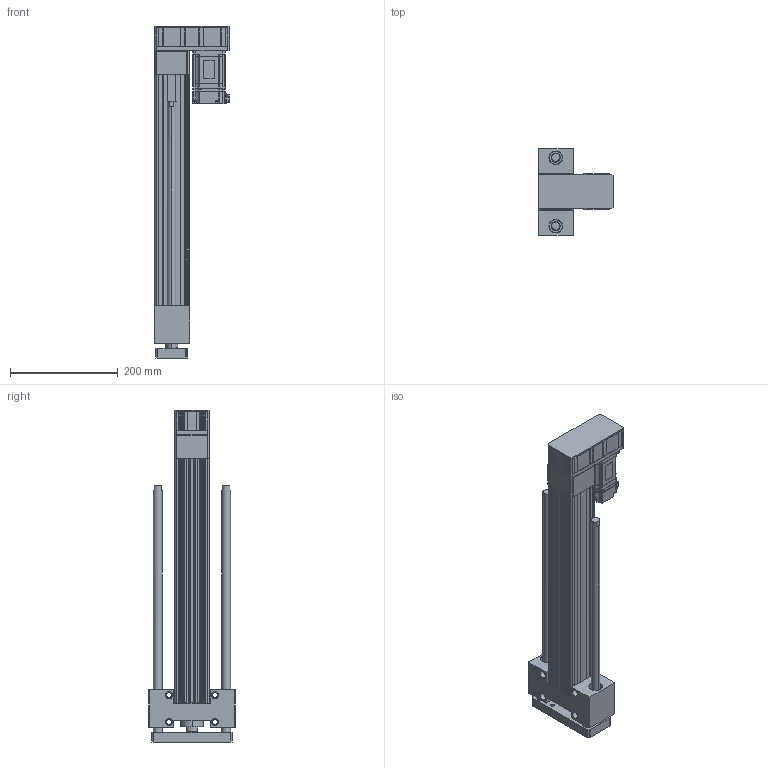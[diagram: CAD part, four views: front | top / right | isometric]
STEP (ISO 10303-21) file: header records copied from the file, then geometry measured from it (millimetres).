
FILE_DESCRIPTION (( 'STEP AP203' ), '1' );
FILE_NAME ('ANS065R-HP350-05(10)(20)-W40.STEP', '2019-03-01T09:45:54', ( 'user' ), ( '' ), 'SwSTEP 2.0', 'SolidWorks 2013', '' );
FILE_SCHEMA (( 'CONFIG_CONTROL_DESIGN' ));
Length unit declared in the file: millimetre
Products named in the file (4): ANS065R HP350 VER2; ANS065 ROD ST350 H; sgmjv_04a_a21; ANS065R-HP350-05(10)(20)-W40
Assembly tree (3 placements, depth 2):
  ANS065R-HP350-05(10)(20)-W40
    ANS065R HP350 VER2
    ANS065 ROD ST350 H
    sgmjv_04a_a21
Bounding box: 140.3 x 160 x 616 mm (x, y, z)
Volume: 2467077.1 mm3; surface area: 578536.6 mm2
Topology: 3 solids, 7 shells, 1457 faces, 3867 edges, 2498 vertices
Faces by surface type: plane 895, cylinder 452, cone 110
Entity records: 45317 total; most frequent: CARTESIAN_POINT 8114, ORIENTED_EDGE 7694, DIRECTION 7647, EDGE_CURVE 3847, VECTOR 2785, LINE 2785, VERTEX_POINT 2498, AXIS2_PLACEMENT_3D 2431
